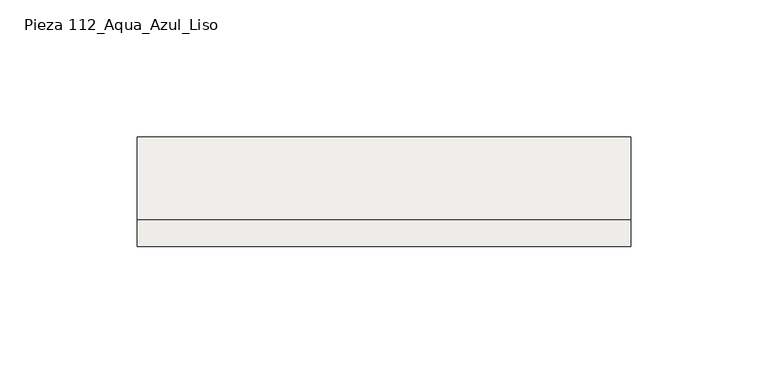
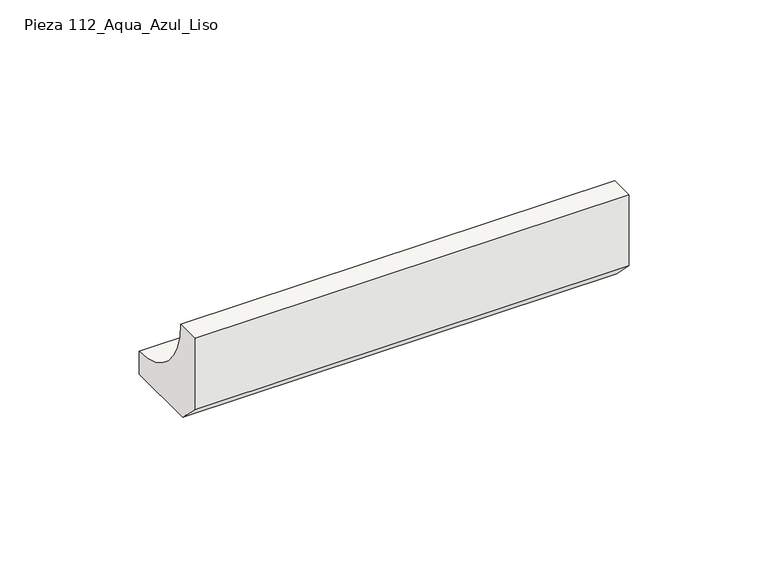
"""IFC4 building model written with IfcOpenShell, lengths in millimetres: slab geometry, ROSA GRES_112 : Pieza 112_Aqua_Azul_Liso."""

from ifc_helpers import new_model, si_unit, point, frame, frame_2d, origin, place, context, project, spatial, polyline, circle_curve, trimmed, segment, composite_curve, outline, extrude, source, transform, mapped, element, save


def pieza_112_aqua_azul_liso_1d791782(model_context):
    return source(origin(), model_context, "Body", "SweptSolid", [
        extrude(outline(composite_curve([segment(polyline([(0.0, 8.7114978), (0.0, 40.0), (9.9734114, 40.0)]), True, "CONTINUOUS"), segment(trimmed(circle_curve(frame_2d((39.9955547, 39.9955547)), 30.0221435), [point((9.9734114, 40.0))], [point((40.0, 9.9734114))], True, "CARTESIAN"), True, "CONTINUOUS"), segment(polyline([(40.0, 9.9734114), (40.0, 0.0), (8.7114978, 0.0), (0.0, 8.7114978)]), True, "CONTINUOUS")], self_intersect=False)), frame((0.0, 0.0, 0.0), z_axis=(1.0, 0.0, 0.0), x_axis=(0.0, 1.0, 0.0)), (0.0, 0.0, 1.0), 180.0),
    ])


if __name__ == "__main__":
    model = new_model("IFC4")
    model_context = context("Model", 3, world=origin())
    ifc_project = project(units=[si_unit("LENGTHUNIT", "METRE", prefix="MILLI")], contexts=[model_context])
    site = spatial("IfcSite", under=ifc_project)
    building = spatial("IfcBuilding", under=site)
    placement = place(None, origin())
    pieza_112_aqua_azul_liso_shape = pieza_112_aqua_azul_liso_1d791782(model_context)
    element("IfcSlab", 1, ObjectType="ROSA GRES_112 : Pieza 112_Aqua_Azul_Liso", at=placement, inside=building, context=model_context, shape_type="MappedRepresentation", body=[
        mapped(pieza_112_aqua_azul_liso_shape, transform((0.0, 0.0, 0.0), x_axis=(1.0, 0.0, 0.0), y_axis=(0.0, 1.0, 0.0), z_axis=(0.0, 0.0, 1.0))),
    ])
    save(model, "model.ifc")
